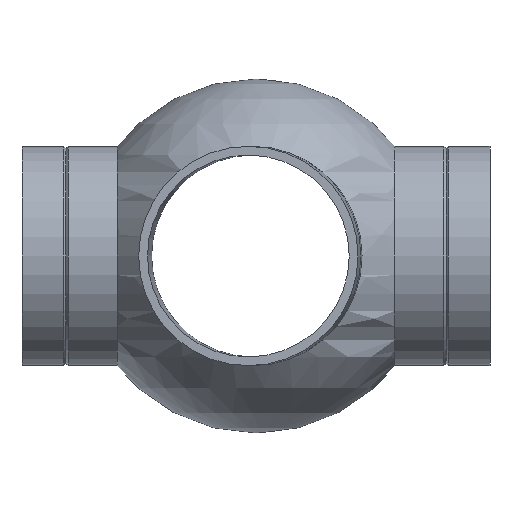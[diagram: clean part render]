
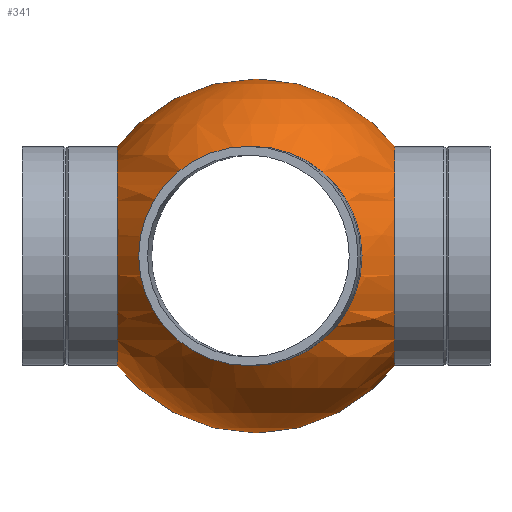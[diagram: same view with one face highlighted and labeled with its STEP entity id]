
A CAD part, left-side view. The second image highlights one B-rep face of the part: STEP entity #341.
In plain terms, the highlighted spherical face has radius 60.5 mm.
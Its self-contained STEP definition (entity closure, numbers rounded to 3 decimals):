
#13=SPHERICAL_SURFACE($,#398,60.5);
#60=FACE_BOUND($,#136,.T.);
#61=FACE_BOUND($,#137,.T.);
#62=FACE_BOUND($,#138,.T.);
#63=FACE_BOUND($,#139,.T.);
#136=EDGE_LOOP($,(#276));
#137=EDGE_LOOP($,(#277));
#138=EDGE_LOOP($,(#278));
#139=EDGE_LOOP($,(#279));
#147=CIRCLE($,#355,37.5);
#152=CIRCLE($,#365,37.5);
#164=CIRCLE($,#387,37.5);
#169=CIRCLE($,#397,37.5);
#175=VERTEX_POINT($,#525);
#180=VERTEX_POINT($,#540);
#192=VERTEX_POINT($,#574);
#197=VERTEX_POINT($,#589);
#203=EDGE_CURVE($,#175,#175,#147,.T.);
#208=EDGE_CURVE($,#180,#180,#152,.T.);
#220=EDGE_CURVE($,#192,#192,#164,.T.);
#225=EDGE_CURVE($,#197,#197,#169,.T.);
#276=ORIENTED_EDGE($,*,*,#203,.T.);
#277=ORIENTED_EDGE($,*,*,#208,.T.);
#278=ORIENTED_EDGE($,*,*,#220,.T.);
#279=ORIENTED_EDGE($,*,*,#225,.T.);
#341=ADVANCED_FACE($,(#60,#61,#62,#63),#13,.T.);
#355=AXIS2_PLACEMENT_3D($,#526,#420,#421);
#365=AXIS2_PLACEMENT_3D($,#541,#440,#441);
#387=AXIS2_PLACEMENT_3D($,#575,#484,#485);
#397=AXIS2_PLACEMENT_3D($,#590,#504,#505);
#398=AXIS2_PLACEMENT_3D($,#591,#506,#507);
#420=DIRECTION('center_axis',(-1.,-0.026,0.));
#421=DIRECTION('ref_axis',(0.,0.,
1.));
#440=DIRECTION('center_axis',(1.,-0.026,0.));
#441=DIRECTION('ref_axis',(0.,0.,-1.));
#484=DIRECTION('center_axis',(0.,1.,0.));
#485=DIRECTION('ref_axis',(1.,0.,0.));
#504=DIRECTION('center_axis',(0.,-1.,0.));
#505=DIRECTION('ref_axis',(1.,0.,0.));
#506=DIRECTION('center_axis',(0.,0.,1.));
#507=DIRECTION('ref_axis',(1.,0.,0.));
#525=CARTESIAN_POINT('',(47.46,1.243,-37.5));
#526=CARTESIAN_POINT('Origin',(47.46,1.243,0.));
#540=CARTESIAN_POINT('',(-47.46,1.243,37.5));
#541=CARTESIAN_POINT('Origin',(-47.46,1.243,0.));
#574=CARTESIAN_POINT('',(-37.5,-47.476,0.));
#575=CARTESIAN_POINT('Origin',(0.,-47.476,0.));
#589=CARTESIAN_POINT('',(-37.5,47.476,0.));
#590=CARTESIAN_POINT('Origin',(0.,47.476,0.));
#591=CARTESIAN_POINT('Origin',(0.,0.,0.));
